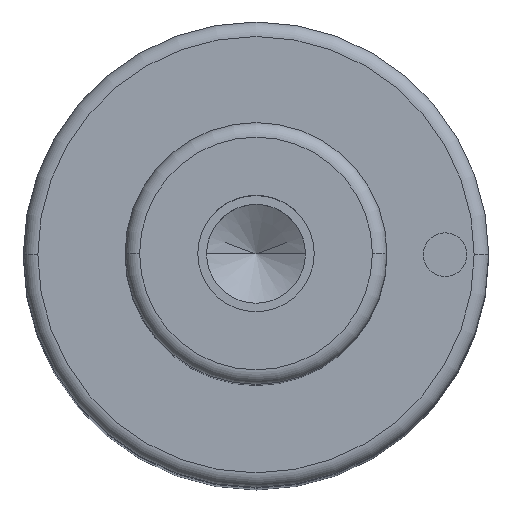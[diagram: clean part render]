
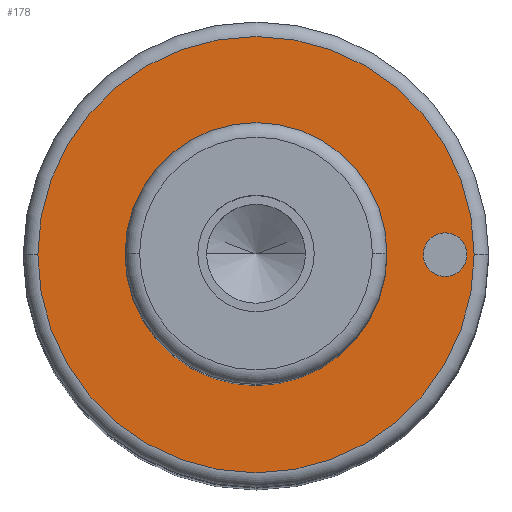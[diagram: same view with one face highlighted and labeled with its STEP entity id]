
A CAD part, top view. The second image highlights one B-rep face of the part: STEP entity #178.
In plain terms, the highlighted planar face has unit normal (0, 0, 1).
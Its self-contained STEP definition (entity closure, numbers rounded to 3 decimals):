
#105=PLANE('',#866);
#115=FACE_BOUND('',#283,.T.);
#116=FACE_BOUND('',#284,.T.);
#117=FACE_BOUND('',#285,.T.);
#178=ADVANCED_FACE('',(#115,#116,#117),#105,.T.);
#283=EDGE_LOOP('',(#473,#474));
#284=EDGE_LOOP('',(#475,#476));
#285=EDGE_LOOP('',(#477,#478));
#333=CIRCLE('',#834,9.);
#334=CIRCLE('',#836,9.);
#338=CIRCLE('',#841,15.);
#339=CIRCLE('',#843,15.);
#351=CIRCLE('',#864,1.5);
#352=CIRCLE('',#865,1.5);
#473=ORIENTED_EDGE('',*,*,#666,.F.);
#474=ORIENTED_EDGE('',*,*,#667,.F.);
#475=ORIENTED_EDGE('',*,*,#685,.F.);
#476=ORIENTED_EDGE('',*,*,#686,.F.);
#477=ORIENTED_EDGE('',*,*,#662,.T.);
#478=ORIENTED_EDGE('',*,*,#660,.T.);
#590=VERTEX_POINT('',#1233);
#591=VERTEX_POINT('',#1235);
#592=VERTEX_POINT('',#1241);
#595=VERTEX_POINT('',#1246);
#604=VERTEX_POINT('',#1285);
#605=VERTEX_POINT('',#1286);
#660=EDGE_CURVE('',#591,#590,#333,.T.);
#662=EDGE_CURVE('',#590,#591,#334,.T.);
#666=EDGE_CURVE('',#595,#592,#338,.T.);
#667=EDGE_CURVE('',#592,#595,#339,.T.);
#685=EDGE_CURVE('',#604,#605,#351,.T.);
#686=EDGE_CURVE('',#605,#604,#352,.T.);
#834=AXIS2_PLACEMENT_3D('',#1234,#985,#986);
#836=AXIS2_PLACEMENT_3D('',#1238,#990,#991);
#841=AXIS2_PLACEMENT_3D('',#1247,#1000,#1001);
#843=AXIS2_PLACEMENT_3D('',#1249,#1004,#1005);
#864=AXIS2_PLACEMENT_3D('',#1284,#1052,#1053);
#865=AXIS2_PLACEMENT_3D('',#1287,#1054,#1055);
#866=AXIS2_PLACEMENT_3D('',#1288,#1056,#1057);
#985=DIRECTION('',(0.,0.,-1.));
#986=DIRECTION('',(0.,1.,0.));
#990=DIRECTION('',(0.,0.,-1.));
#991=DIRECTION('',(0.,-1.,0.));
#1000=DIRECTION('',(0.,0.,-1.));
#1001=DIRECTION('',(0.,1.,0.));
#1004=DIRECTION('',(0.,0.,-1.));
#1005=DIRECTION('',(0.,-1.,0.));
#1052=DIRECTION('',(0.,0.,1.));
#1053=DIRECTION('',(0.,1.,0.));
#1054=DIRECTION('',(0.,0.,1.));
#1055=DIRECTION('',(0.,-1.,0.));
#1056=DIRECTION('',(0.,0.,1.));
#1057=DIRECTION('',(0.,-1.,0.));
#1233=CARTESIAN_POINT('',(-9.,0.,103.));
#1234=CARTESIAN_POINT('',(0.,0.,103.));
#1235=CARTESIAN_POINT('',(9.,0.,103.));
#1238=CARTESIAN_POINT('',(0.,0.,103.));
#1241=CARTESIAN_POINT('',(-15.,0.,103.));
#1246=CARTESIAN_POINT('',(15.,0.,103.));
#1247=CARTESIAN_POINT('',(0.,0.,103.));
#1249=CARTESIAN_POINT('',(0.,0.,103.));
#1284=CARTESIAN_POINT('',(13.,0.,103.));
#1285=CARTESIAN_POINT('',(11.5,0.,103.));
#1286=CARTESIAN_POINT('',(14.5,0.,103.));
#1287=CARTESIAN_POINT('',(13.,0.,103.));
#1288=CARTESIAN_POINT('',(0.,0.,103.));
